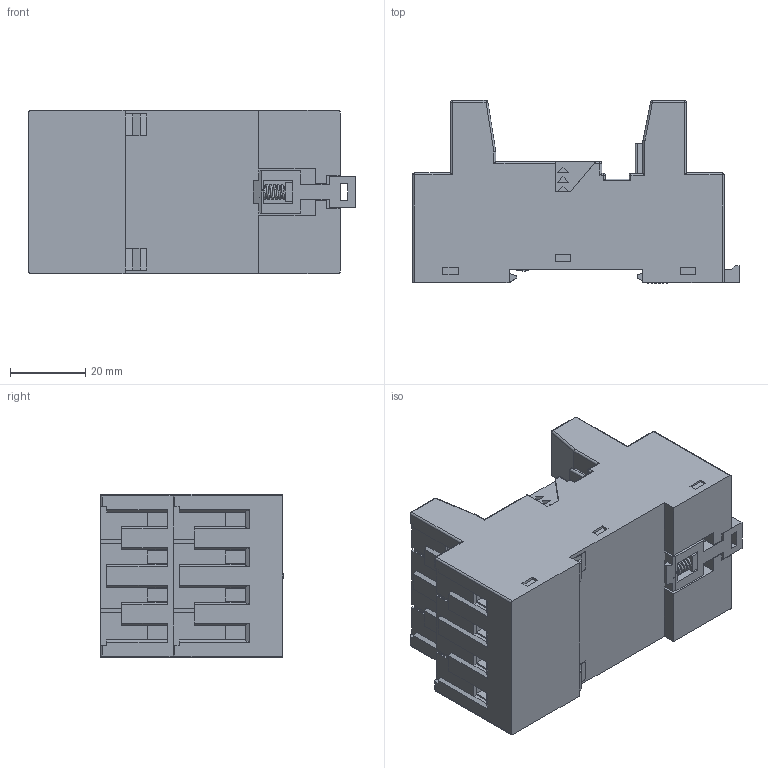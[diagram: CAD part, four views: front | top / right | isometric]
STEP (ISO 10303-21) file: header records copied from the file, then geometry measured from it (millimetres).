
FILE_DESCRIPTION(('STEP AP214'),'2;1');
FILE_NAME('9604_catalogo.stp','2010-09-08T10:50:42',(''),(''),'2007.1.106','THINKDESIGN','');
FILE_SCHEMA(('AUTOMOTIVE_DESIGN'));
Products named in the file (1): None
Bounding box: 86.5 x 48.45 x 43.4 mm (x, y, z)
Surface area: 26482.3 mm2 (no closed solid volume)
Topology: 0 solids, 0 shells, 965 faces, 5410 edges, 5388 vertices
Faces by surface type: plane 803, cylinder 99, bspline 63
Full cylindrical faces by diameter (mm): 2 x1, 4.7 x14
Entity records: 54637 total; most frequent: CARTESIAN_POINT 15055, DIRECTION 6935, COMPOSITE_CURVE_SEGMENT 5388, TRIMMED_CURVE 4883, VECTOR 4635, LINE 4635, AXIS2_PLACEMENT_3D 1150, OUTER_BOUNDARY_CURVE 965
